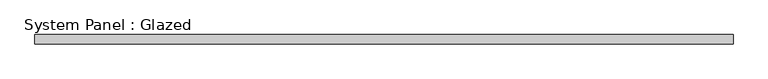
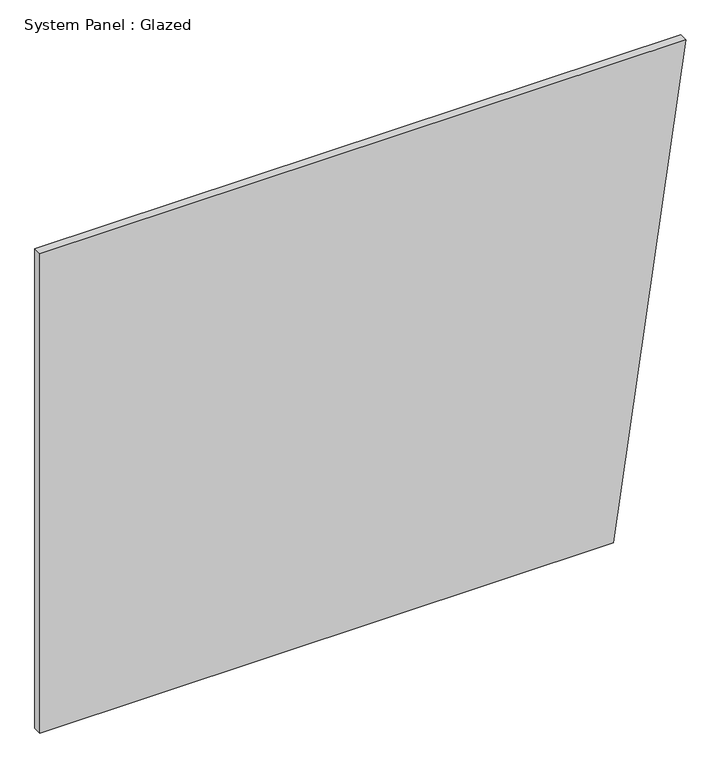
"""IFC4 building model written with IfcOpenShell, lengths in millimetres: plate geometry, System Panel : Glazed."""

from ifc_helpers import new_model, si_unit, frame, origin, place, context, project, spatial, polyline, outline, extrude, source, transform, mapped, element, save


def system_panel_glazed_35b88479(model_context):
    return source(origin(), model_context, "Body", "SweptSolid", [
        extrude(outline(polyline([(0.0, -972.0215835), (0.0, 754.9762284), (1524.0, 972.0215835), (1524.0, -972.0215835), (0.0, -972.0215835)])), frame((0.0, 19.05, 0.0), z_axis=(0.0, 1.0, 0.0), x_axis=(0.0, 0.0, 1.0)), (0.0, 0.0, 1.0), 25.4),
    ])


if __name__ == "__main__":
    model = new_model("IFC4")
    model_context = context("Model", 3, world=origin())
    ifc_project = project(units=[si_unit("LENGTHUNIT", "METRE", prefix="MILLI")], contexts=[model_context])
    site = spatial("IfcSite", under=ifc_project)
    building = spatial("IfcBuilding", under=site)
    placement = place(None, origin())
    system_panel_glazed_shape = system_panel_glazed_35b88479(model_context)
    element("IfcPlate", 1, ObjectType="System Panel : Glazed", at=placement, inside=building, context=model_context, shape_type="MappedRepresentation", body=[
        mapped(system_panel_glazed_shape, transform((0.0, 0.0, 0.0), x_axis=(1.0, 0.0, 0.0), y_axis=(0.0, 1.0, 0.0), z_axis=(0.0, 0.0, 1.0))),
    ])
    save(model, "model.ifc")
